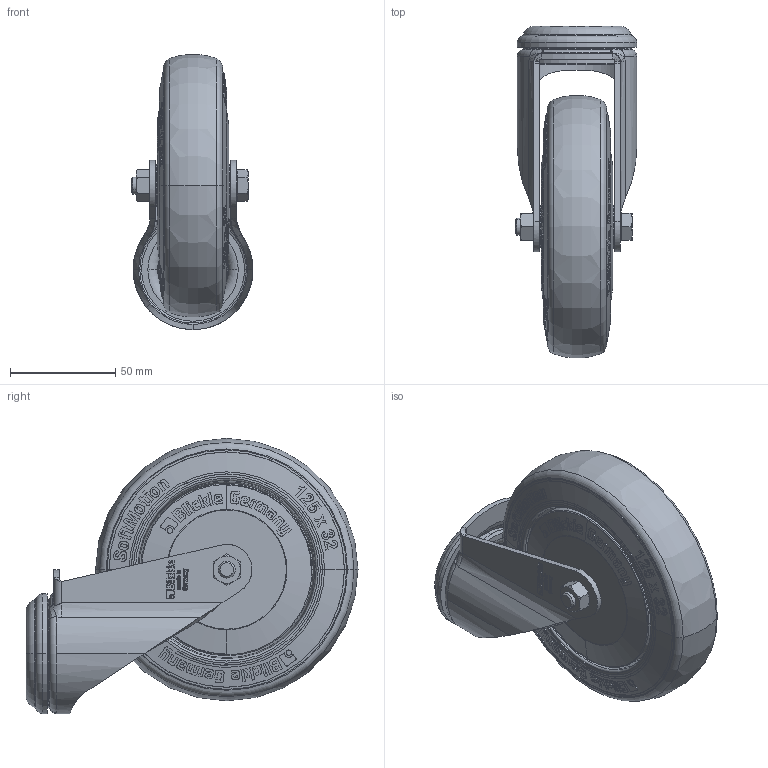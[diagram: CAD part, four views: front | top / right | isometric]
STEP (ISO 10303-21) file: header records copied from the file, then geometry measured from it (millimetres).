
FILE_DESCRIPTION (( 'STEP AP214' ), '1' );
FILE_NAME ('LKRA-POES_127K-SG-FK_921802-214.step', '2022-01-05T14:13:01', ( '' ), ( '' ), 'SwSTEP 2.0', 'SolidWorks 2018', '' );
FILE_SCHEMA (( 'AUTOMOTIVE_DESIGN' ));
Length unit declared in the file: millimetre
Products named in the file (5): GH-LKRA_050-125_GH-LKRA-125x35-057-13_8x36; POES_127_8K-SG-FK_G16_3D; LKRA-POES_127K-SG-FK_921802-214; POES_3D_G16_POES_127_8K-SG-FK_921613; GH-LKRA-125x35-057-13_8x36_G16_3D
Assembly tree (4 placements, depth 3):
  LKRA-POES_127K-SG-FK_921802-214
    GH-LKRA_050-125_GH-LKRA-125x35-057-13_8x36
      GH-LKRA-125x35-057-13_8x36_G16_3D
    POES_3D_G16_POES_127_8K-SG-FK_921613
      POES_127_8K-SG-FK_G16_3D
Bounding box: 58 x 157.92 x 130.92 mm (x, y, z)
Volume: 300824.8 mm3; surface area: 110601.3 mm2
Topology: 2 solids, 8 shells, 3506 faces, 9406 edges, 6187 vertices
Faces by surface type: plane 1623, bspline 1379, cone 293, torus 108, cylinder 103
Entity records: 148924 total; most frequent: CARTESIAN_POINT 59295, ORIENTED_EDGE 18812, DIRECTION 10165, EDGE_CURVE 9406, VERTEX_POINT 6187, LINE 4547, VECTOR 4547, B_SPLINE_CURVE_WITH_KNOTS 4113
